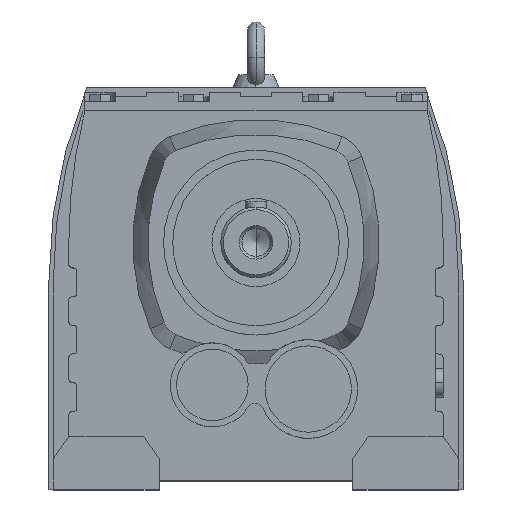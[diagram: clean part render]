
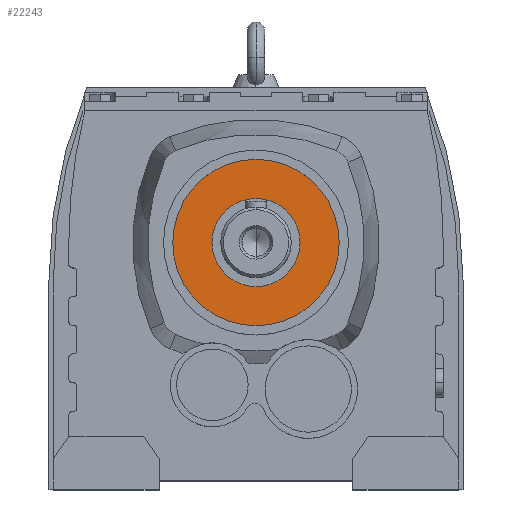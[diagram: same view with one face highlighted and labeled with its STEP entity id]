
A CAD part, top view. The second image highlights one B-rep face of the part: STEP entity #22243.
In plain terms, the highlighted planar face has unit normal (0, 0, 1).
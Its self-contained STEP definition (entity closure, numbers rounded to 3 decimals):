
#21946 = CYLINDRICAL_SURFACE('',#21947,47.25);
#21947 = AXIS2_PLACEMENT_3D('',#21948,#21949,#21950);
#21948 = CARTESIAN_POINT('',(0.,15.9,300.));
#21949 = DIRECTION('',(0.,0.,1.));
#21950 = DIRECTION('',(0.,-1.,0.));
#21976 = CYLINDRICAL_SURFACE('',#21977,47.25);
#21977 = AXIS2_PLACEMENT_3D('',#21978,#21979,#21980);
#21978 = CARTESIAN_POINT('',(0.,15.9,300.));
#21979 = DIRECTION('',(0.,0.,1.));
#21980 = DIRECTION('',(0.,-1.,0.));
#22148 = EDGE_CURVE('',#22149,#22151,#22153,.T.);
#22149 = VERTEX_POINT('',#22150);
#22150 = CARTESIAN_POINT('',(0.,-31.35,212.));
#22151 = VERTEX_POINT('',#22152);
#22152 = CARTESIAN_POINT('',(0.,63.15,212.));
#22153 = SURFACE_CURVE('',#22154,(#22159,#22165),.PCURVE_S1.);
#22154 = CIRCLE('',#22155,47.25);
#22155 = AXIS2_PLACEMENT_3D('',#22156,#22157,#22158);
#22156 = CARTESIAN_POINT('',(0.,15.9,212.));
#22157 = DIRECTION('',(0.,0.,-1.));
#22158 = DIRECTION('',(-1.,0.,0.));
#22159 = PCURVE('',#21976,#22160);
#22160 = DEFINITIONAL_REPRESENTATION('',(#22161),#22164);
#22161 = B_SPLINE_CURVE_WITH_KNOTS('',1,(#22162,#22163),.UNSPECIFIED.,
  .F.,.F.,(2,2),(4.712,7.854),
  .PIECEWISE_BEZIER_KNOTS.);
#22162 = CARTESIAN_POINT('',(6.283,-88.));
#22163 = CARTESIAN_POINT('',(3.142,-88.));
#22164 = ( GEOMETRIC_REPRESENTATION_CONTEXT(2) 
PARAMETRIC_REPRESENTATION_CONTEXT() REPRESENTATION_CONTEXT('2D SPACE',''
  ) );
#22165 = PCURVE('',#22166,#22171);
#22166 = PLANE('',#22167);
#22167 = AXIS2_PLACEMENT_3D('',#22168,#22169,#22170);
#22168 = CARTESIAN_POINT('',(-20.382,8.282,212.));
#22169 = DIRECTION('',(0.,0.,-1.));
#22170 = DIRECTION('',(-1.,0.,0.));
#22171 = DEFINITIONAL_REPRESENTATION('',(#22172),#22176);
#22172 = CIRCLE('',#22173,47.25);
#22173 = AXIS2_PLACEMENT_2D('',#22174,#22175);
#22174 = CARTESIAN_POINT('',(-20.382,7.618));
#22175 = DIRECTION('',(1.,0.));
#22176 = ( GEOMETRIC_REPRESENTATION_CONTEXT(2) 
PARAMETRIC_REPRESENTATION_CONTEXT() REPRESENTATION_CONTEXT('2D SPACE',''
  ) );
#22223 = EDGE_CURVE('',#22151,#22149,#22224,.T.);
#22224 = SURFACE_CURVE('',#22225,(#22230,#22236),.PCURVE_S1.);
#22225 = CIRCLE('',#22226,47.25);
#22226 = AXIS2_PLACEMENT_3D('',#22227,#22228,#22229);
#22227 = CARTESIAN_POINT('',(0.,15.9,212.));
#22228 = DIRECTION('',(0.,0.,-1.));
#22229 = DIRECTION('',(-1.,0.,0.));
#22230 = PCURVE('',#21946,#22231);
#22231 = DEFINITIONAL_REPRESENTATION('',(#22232),#22235);
#22232 = B_SPLINE_CURVE_WITH_KNOTS('',1,(#22233,#22234),.UNSPECIFIED.,
  .F.,.F.,(2,2),(1.571,4.712),
  .PIECEWISE_BEZIER_KNOTS.);
#22233 = CARTESIAN_POINT('',(3.142,-88.));
#22234 = CARTESIAN_POINT('',(0.,-88.));
#22235 = ( GEOMETRIC_REPRESENTATION_CONTEXT(2) 
PARAMETRIC_REPRESENTATION_CONTEXT() REPRESENTATION_CONTEXT('2D SPACE',''
  ) );
#22236 = PCURVE('',#22166,#22237);
#22237 = DEFINITIONAL_REPRESENTATION('',(#22238),#22242);
#22238 = CIRCLE('',#22239,47.25);
#22239 = AXIS2_PLACEMENT_2D('',#22240,#22241);
#22240 = CARTESIAN_POINT('',(-20.382,7.618));
#22241 = DIRECTION('',(1.,0.));
#22242 = ( GEOMETRIC_REPRESENTATION_CONTEXT(2) 
PARAMETRIC_REPRESENTATION_CONTEXT() REPRESENTATION_CONTEXT('2D SPACE',''
  ) );
#22243 = ADVANCED_FACE('',(#22244,#22248),#22166,.F.);
#22244 = FACE_BOUND('',#22245,.T.);
#22245 = EDGE_LOOP('',(#22246,#22247));
#22246 = ORIENTED_EDGE('',*,*,#22148,.F.);
#22247 = ORIENTED_EDGE('',*,*,#22223,.F.);
#22248 = FACE_BOUND('',#22249,.T.);
#22249 = EDGE_LOOP('',(#22250,#22284));
#22250 = ORIENTED_EDGE('',*,*,#22251,.F.);
#22251 = EDGE_CURVE('',#22252,#22254,#22256,.T.);
#22252 = VERTEX_POINT('',#22253);
#22253 = CARTESIAN_POINT('',(0.,-9.1,212.));
#22254 = VERTEX_POINT('',#22255);
#22255 = CARTESIAN_POINT('',(0.,40.9,212.));
#22256 = SURFACE_CURVE('',#22257,(#22262,#22273),.PCURVE_S1.);
#22257 = CIRCLE('',#22258,25.);
#22258 = AXIS2_PLACEMENT_3D('',#22259,#22260,#22261);
#22259 = CARTESIAN_POINT('',(0.,15.9,212.));
#22260 = DIRECTION('',(0.,0.,1.));
#22261 = DIRECTION('',(-1.,0.,0.));
#22262 = PCURVE('',#22166,#22263);
#22263 = DEFINITIONAL_REPRESENTATION('',(#22264),#22272);
#22264 = ( BOUNDED_CURVE() B_SPLINE_CURVE(2,(#22265,#22266,#22267,#22268
    ,#22269,#22270,#22271),.UNSPECIFIED.,.F.,.F.) 
B_SPLINE_CURVE_WITH_KNOTS((1,2,2,2,2,1),(-2.094,0.,
    2.094,4.189,6.283,8.378),
.UNSPECIFIED.) CURVE() GEOMETRIC_REPRESENTATION_ITEM() 
RATIONAL_B_SPLINE_CURVE((1.,0.5,1.,0.5,1.,0.5,1.)) REPRESENTATION_ITEM(
  '') );
#22265 = CARTESIAN_POINT('',(4.618,7.618));
#22266 = CARTESIAN_POINT('',(4.618,-35.683));
#22267 = CARTESIAN_POINT('',(-32.882,-14.033));
#22268 = CARTESIAN_POINT('',(-70.382,7.618));
#22269 = CARTESIAN_POINT('',(-32.882,29.269));
#22270 = CARTESIAN_POINT('',(4.618,50.919));
#22271 = CARTESIAN_POINT('',(4.618,7.618));
#22272 = ( GEOMETRIC_REPRESENTATION_CONTEXT(2) 
PARAMETRIC_REPRESENTATION_CONTEXT() REPRESENTATION_CONTEXT('2D SPACE',''
  ) );
#22273 = PCURVE('',#22274,#22279);
#22274 = CYLINDRICAL_SURFACE('',#22275,25.);
#22275 = AXIS2_PLACEMENT_3D('',#22276,#22277,#22278);
#22276 = CARTESIAN_POINT('',(0.,15.9,300.));
#22277 = DIRECTION('',(0.,0.,1.));
#22278 = DIRECTION('',(0.,-1.,0.));
#22279 = DEFINITIONAL_REPRESENTATION('',(#22280),#22283);
#22280 = B_SPLINE_CURVE_WITH_KNOTS('',1,(#22281,#22282),.UNSPECIFIED.,
  .F.,.F.,(2,2),(1.571,4.712),
  .PIECEWISE_BEZIER_KNOTS.);
#22281 = CARTESIAN_POINT('',(0.,-88.));
#22282 = CARTESIAN_POINT('',(3.142,-88.));
#22283 = ( GEOMETRIC_REPRESENTATION_CONTEXT(2) 
PARAMETRIC_REPRESENTATION_CONTEXT() REPRESENTATION_CONTEXT('2D SPACE',''
  ) );
#22284 = ORIENTED_EDGE('',*,*,#22285,.F.);
#22285 = EDGE_CURVE('',#22254,#22252,#22286,.T.);
#22286 = SURFACE_CURVE('',#22287,(#22292,#22303),.PCURVE_S1.);
#22287 = CIRCLE('',#22288,25.);
#22288 = AXIS2_PLACEMENT_3D('',#22289,#22290,#22291);
#22289 = CARTESIAN_POINT('',(0.,15.9,212.));
#22290 = DIRECTION('',(0.,0.,1.));
#22291 = DIRECTION('',(-1.,0.,0.));
#22292 = PCURVE('',#22166,#22293);
#22293 = DEFINITIONAL_REPRESENTATION('',(#22294),#22302);
#22294 = ( BOUNDED_CURVE() B_SPLINE_CURVE(2,(#22295,#22296,#22297,#22298
    ,#22299,#22300,#22301),.UNSPECIFIED.,.F.,.F.) 
B_SPLINE_CURVE_WITH_KNOTS((1,2,2,2,2,1),(-2.094,0.,
    2.094,4.189,6.283,8.378),
.UNSPECIFIED.) CURVE() GEOMETRIC_REPRESENTATION_ITEM() 
RATIONAL_B_SPLINE_CURVE((1.,0.5,1.,0.5,1.,0.5,1.)) REPRESENTATION_ITEM(
  '') );
#22295 = CARTESIAN_POINT('',(4.618,7.618));
#22296 = CARTESIAN_POINT('',(4.618,-35.683));
#22297 = CARTESIAN_POINT('',(-32.882,-14.033));
#22298 = CARTESIAN_POINT('',(-70.382,7.618));
#22299 = CARTESIAN_POINT('',(-32.882,29.269));
#22300 = CARTESIAN_POINT('',(4.618,50.919));
#22301 = CARTESIAN_POINT('',(4.618,7.618));
#22302 = ( GEOMETRIC_REPRESENTATION_CONTEXT(2) 
PARAMETRIC_REPRESENTATION_CONTEXT() REPRESENTATION_CONTEXT('2D SPACE',''
  ) );
#22303 = PCURVE('',#22304,#22309);
#22304 = CYLINDRICAL_SURFACE('',#22305,25.);
#22305 = AXIS2_PLACEMENT_3D('',#22306,#22307,#22308);
#22306 = CARTESIAN_POINT('',(0.,15.9,300.));
#22307 = DIRECTION('',(0.,0.,1.));
#22308 = DIRECTION('',(0.,-1.,0.));
#22309 = DEFINITIONAL_REPRESENTATION('',(#22310),#22313);
#22310 = B_SPLINE_CURVE_WITH_KNOTS('',1,(#22311,#22312),.UNSPECIFIED.,
  .F.,.F.,(2,2),(4.712,7.854),
  .PIECEWISE_BEZIER_KNOTS.);
#22311 = CARTESIAN_POINT('',(3.142,-88.));
#22312 = CARTESIAN_POINT('',(6.283,-88.));
#22313 = ( GEOMETRIC_REPRESENTATION_CONTEXT(2) 
PARAMETRIC_REPRESENTATION_CONTEXT() REPRESENTATION_CONTEXT('2D SPACE',''
  ) );
